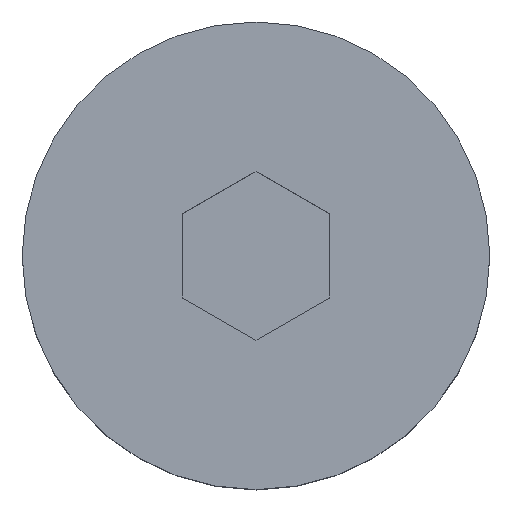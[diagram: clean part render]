
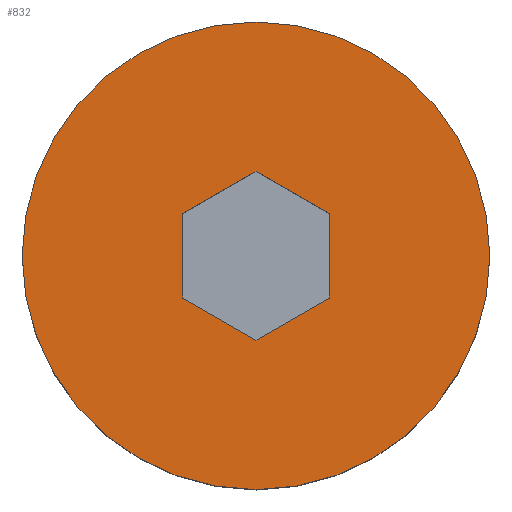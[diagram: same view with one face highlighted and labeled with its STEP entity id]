
A CAD part, top view. The second image highlights one B-rep face of the part: STEP entity #832.
In plain terms, the highlighted planar face has unit normal (0, 0, 1).
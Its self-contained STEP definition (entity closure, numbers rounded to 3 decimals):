
#21 = CARTESIAN_POINT ( 'NONE',  ( 0., 2.887, 7. ) ) ;
#26 = CARTESIAN_POINT ( 'NONE',  ( -2.5, 1.443, 7. ) ) ;
#38 = AXIS2_PLACEMENT_3D ( 'NONE', #88, #707, #175 ) ;
#48 = DIRECTION ( 'NONE',  ( 0., 0., -1. ) ) ;
#88 = CARTESIAN_POINT ( 'NONE',  ( 0., 0., 7. ) ) ;
#99 = EDGE_CURVE ( 'NONE', #777, #138, #331, .T. ) ;
#102 = ORIENTED_EDGE ( 'NONE', *, *, #950, .F. ) ;
#132 = PLANE ( 'NONE',  #352 ) ;
#138 = VERTEX_POINT ( 'NONE', #1031 ) ;
#158 = ORIENTED_EDGE ( 'NONE', *, *, #366, .F. ) ;
#161 = AXIS2_PLACEMENT_3D ( 'NONE', #1069, #506, #1160 ) ;
#164 = FACE_OUTER_BOUND ( 'NONE', #742, .T. ) ;
#175 = DIRECTION ( 'NONE',  ( -1., 0., 0. ) ) ;
#178 = EDGE_CURVE ( 'NONE', #138, #500, #646, .T. ) ;
#185 = VERTEX_POINT ( 'NONE', #21 ) ;
#271 = DIRECTION ( 'NONE',  ( 0., 1., 0. ) ) ;
#293 = CARTESIAN_POINT ( 'NONE',  ( -1.25, -2.165, 7. ) ) ;
#297 = LINE ( 'NONE', #1132, #755 ) ;
#299 = DIRECTION ( 'NONE',  ( -0.866, -0.5, 0. ) ) ;
#316 = VECTOR ( 'NONE', #1116, 1000. ) ;
#331 = LINE ( 'NONE', #293, #477 ) ;
#350 = LINE ( 'NONE', #607, #1080 ) ;
#352 = AXIS2_PLACEMENT_3D ( 'NONE', #585, #48, #667 ) ;
#363 = FACE_BOUND ( 'NONE', #434, .T. ) ;
#366 = EDGE_CURVE ( 'NONE', #185, #497, #297, .T. ) ;
#372 = VERTEX_POINT ( 'NONE', #1036 ) ;
#424 = ORIENTED_EDGE ( 'NONE', *, *, #921, .F. ) ;
#434 = EDGE_LOOP ( 'NONE', ( #158, #793, #424, #997, #1082, #1104 ) ) ;
#455 = CARTESIAN_POINT ( 'NONE',  ( -2.5, 0., 7. ) ) ;
#477 = VECTOR ( 'NONE', #853, 1000. ) ;
#497 = VERTEX_POINT ( 'NONE', #26 ) ;
#500 = VERTEX_POINT ( 'NONE', #1039 ) ;
#506 = DIRECTION ( 'NONE',  ( 0., 0., -1. ) ) ;
#538 = CIRCLE ( 'NONE', #161, 8. ) ;
#585 = CARTESIAN_POINT ( 'NONE',  ( 0., 0., 7. ) ) ;
#607 = CARTESIAN_POINT ( 'NONE',  ( 1.25, 2.165, 7. ) ) ;
#627 = VECTOR ( 'NONE', #271, 1000. ) ;
#646 = LINE ( 'NONE', #931, #316 ) ;
#667 = DIRECTION ( 'NONE',  ( -1., 0., 0. ) ) ;
#675 = LINE ( 'NONE', #455, #904 ) ;
#707 = DIRECTION ( 'NONE',  ( 0., 0., -1. ) ) ;
#721 = VERTEX_POINT ( 'NONE', #981 ) ;
#742 = EDGE_LOOP ( 'NONE', ( #1102, #102 ) ) ;
#755 = VECTOR ( 'NONE', #299, 1000. ) ;
#777 = VERTEX_POINT ( 'NONE', #1173 ) ;
#793 = ORIENTED_EDGE ( 'NONE', *, *, #808, .F. ) ;
#808 = EDGE_CURVE ( 'NONE', #914, #185, #350, .T. ) ;
#832 = ADVANCED_FACE ( 'NONE', ( #164, #363 ), #132, .F. ) ;
#853 = DIRECTION ( 'NONE',  ( 0.866, -0.5, 0. ) ) ;
#862 = EDGE_CURVE ( 'NONE', #721, #372, #538, .T. ) ;
#877 = CARTESIAN_POINT ( 'NONE',  ( 2.5, 1.443, 7. ) ) ;
#893 = LINE ( 'NONE', #979, #627 ) ;
#904 = VECTOR ( 'NONE', #923, 1000. ) ;
#914 = VERTEX_POINT ( 'NONE', #877 ) ;
#921 = EDGE_CURVE ( 'NONE', #500, #914, #893, .T. ) ;
#923 = DIRECTION ( 'NONE',  ( 0., -1., 0. ) ) ;
#931 = CARTESIAN_POINT ( 'NONE',  ( 1.25, -2.165, 7. ) ) ;
#950 = EDGE_CURVE ( 'NONE', #372, #721, #1144, .T. ) ;
#979 = CARTESIAN_POINT ( 'NONE',  ( 2.5, 0., 7. ) ) ;
#981 = CARTESIAN_POINT ( 'NONE',  ( -8., 0., 7. ) ) ;
#997 = ORIENTED_EDGE ( 'NONE', *, *, #178, .F. ) ;
#1031 = CARTESIAN_POINT ( 'NONE',  ( 0., -2.887, 7. ) ) ;
#1036 = CARTESIAN_POINT ( 'NONE',  ( 8., 0., 7. ) ) ;
#1039 = CARTESIAN_POINT ( 'NONE',  ( 2.5, -1.443, 7. ) ) ;
#1052 = EDGE_CURVE ( 'NONE', #497, #777, #675, .T. ) ;
#1069 = CARTESIAN_POINT ( 'NONE',  ( 0., 0., 7. ) ) ;
#1080 = VECTOR ( 'NONE', #1136, 1000. ) ;
#1082 = ORIENTED_EDGE ( 'NONE', *, *, #99, .F. ) ;
#1102 = ORIENTED_EDGE ( 'NONE', *, *, #862, .F. ) ;
#1104 = ORIENTED_EDGE ( 'NONE', *, *, #1052, .F. ) ;
#1116 = DIRECTION ( 'NONE',  ( 0.866, 0.5, 0. ) ) ;
#1132 = CARTESIAN_POINT ( 'NONE',  ( -1.25, 2.165, 7. ) ) ;
#1136 = DIRECTION ( 'NONE',  ( -0.866, 0.5, 0. ) ) ;
#1144 = CIRCLE ( 'NONE', #38, 8. ) ;
#1160 = DIRECTION ( 'NONE',  ( -1., 0., 0. ) ) ;
#1173 = CARTESIAN_POINT ( 'NONE',  ( -2.5, -1.443, 7. ) ) ;
